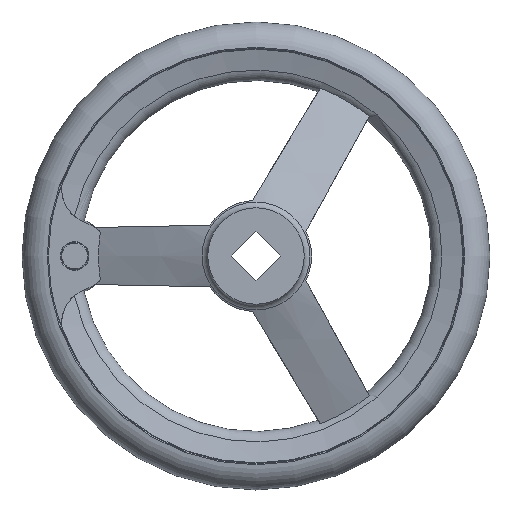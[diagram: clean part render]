
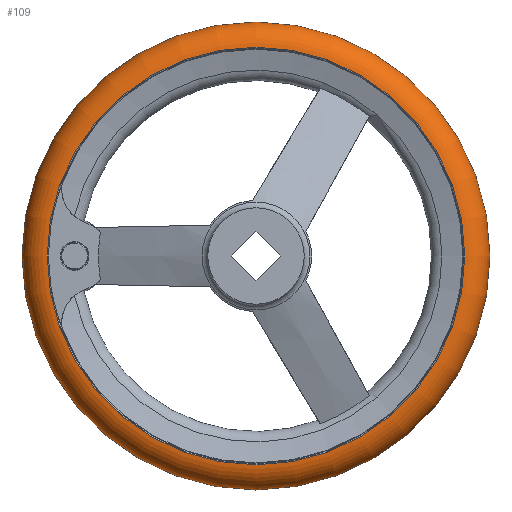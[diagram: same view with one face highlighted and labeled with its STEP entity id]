
A CAD part, left-side view. The second image highlights one B-rep face of the part: STEP entity #109.
In plain terms, the highlighted toroidal (fillet/blend) face has major radius 70.992 mm and minor radius 9.008 mm.
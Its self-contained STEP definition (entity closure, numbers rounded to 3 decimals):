
#109 = ADVANCED_FACE( '', ( #207, #208, #209 ), #210, .T. );
#207 = FACE_BOUND( '', #357, .T. );
#208 = FACE_OUTER_BOUND( '', #358, .T. );
#209 = FACE_OUTER_BOUND( '', #359, .T. );
#210 = TOROIDAL_SURFACE( '', #360, 70.992, 9.008 );
#357 = VERTEX_LOOP( '', #630 );
#358 = EDGE_LOOP( '', ( #631 ) );
#359 = EDGE_LOOP( '', ( #632 ) );
#360 = AXIS2_PLACEMENT_3D( '', #633, #634, #635 );
#630 = VERTEX_POINT( '', #811 );
#631 = ORIENTED_EDGE( '', *, *, #810, .T. );
#632 = ORIENTED_EDGE( '', *, *, #803, .F. );
#633 = CARTESIAN_POINT( '', ( 31., 0., 0. ) );
#634 = DIRECTION( '', ( 1., 0., 0. ) );
#635 = DIRECTION( '', ( 0., 1., 0. ) );
#803 = EDGE_CURVE( '', #967, #967, #968, .T. );
#810 = EDGE_CURVE( '', #979, #979, #980, .T. );
#811 = CARTESIAN_POINT( '', ( 31., 80., 0. ) );
#967 = VERTEX_POINT( '', #1495 );
#968 = CIRCLE( '', #1496, 71.375 );
#979 = VERTEX_POINT( '', #1507 );
#980 = CIRCLE( '', #1508, 71.375 );
#1495 = CARTESIAN_POINT( '', ( 40., 71.375, 0. ) );
#1496 = AXIS2_PLACEMENT_3D( '', #1671, #1672, #1673 );
#1507 = CARTESIAN_POINT( '', ( 22., 71.375, 0. ) );
#1508 = AXIS2_PLACEMENT_3D( '', #1692, #1693, #1694 );
#1671 = CARTESIAN_POINT( '', ( 40., 0., 0. ) );
#1672 = DIRECTION( '', ( 1., 0., 0. ) );
#1673 = DIRECTION( '', ( 0., 1., 0. ) );
#1692 = CARTESIAN_POINT( '', ( 22., 0., 0. ) );
#1693 = DIRECTION( '', ( 1., 0., 0. ) );
#1694 = DIRECTION( '', ( 0., 1., 0. ) );
